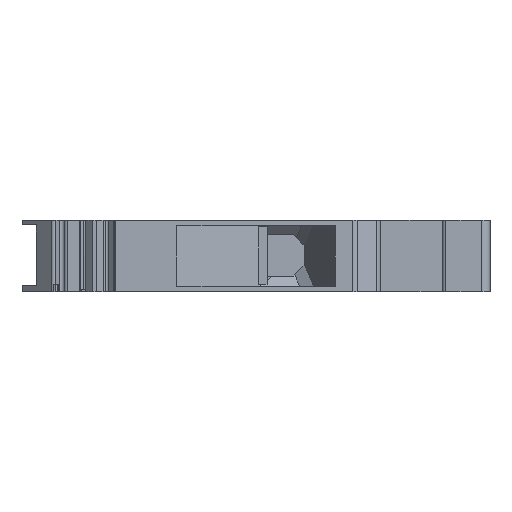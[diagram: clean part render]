
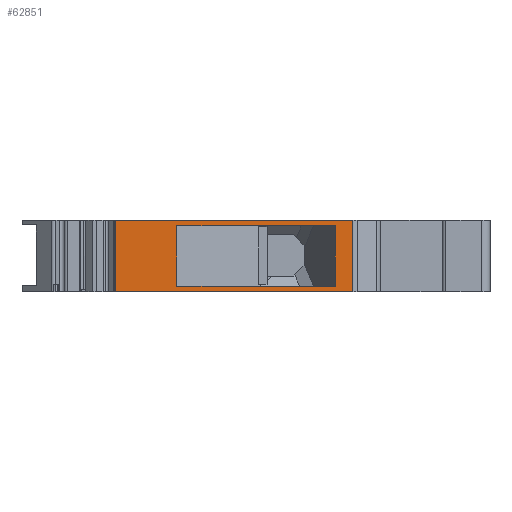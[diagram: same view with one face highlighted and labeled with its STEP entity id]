
A CAD part, left-side view. The second image highlights one B-rep face of the part: STEP entity #62851.
In plain terms, the highlighted planar face has unit normal (-1, 0, 0).
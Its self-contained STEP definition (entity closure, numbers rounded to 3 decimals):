
#62851 = ADVANCED_FACE('',(#62852,#62923),#62866,.F.);
#62852 = FACE_BOUND('',#62853,.F.);
#62853 = EDGE_LOOP('',(#62854,#62877,#62893,#62909));
#62854 = ORIENTED_EDGE('',*,*,#62855,.F.);
#62855 = EDGE_CURVE('',#62856,#62858,#62860,.T.);
#62856 = VERTEX_POINT('',#62857);
#62857 = CARTESIAN_POINT('',(-48.15,9.257,
    70.));
#62858 = VERTEX_POINT('',#62859);
#62859 = CARTESIAN_POINT('',(-48.15,9.257,78.15));
#62860 = SURFACE_CURVE('',#62861,(#62865),.PCURVE_S1.);
#62861 = LINE('',#62862,#62863);
#62862 = CARTESIAN_POINT('',(-48.15,9.257,
    70.));
#62863 = VECTOR('',#62864,1.);
#62864 = DIRECTION('',(0.,0.,1.));
#62865 = PCURVE('',#62866,#62871);
#62866 = PLANE('',#62867);
#62867 = AXIS2_PLACEMENT_3D('',#62868,#62869,#62870);
#62868 = CARTESIAN_POINT('',(-48.15,29.348,
    70.5));
#62869 = DIRECTION('',(1.,0.,0.));
#62870 = DIRECTION('',(0.,-1.,0.));
#62871 = DEFINITIONAL_REPRESENTATION('',(#62872),#62876);
#62872 = LINE('',#62873,#62874);
#62873 = CARTESIAN_POINT('',(20.092,0.5));
#62874 = VECTOR('',#62875,1.);
#62875 = DIRECTION('',(0.,-1.));
#62876 = ( GEOMETRIC_REPRESENTATION_CONTEXT(2) 
PARAMETRIC_REPRESENTATION_CONTEXT() REPRESENTATION_CONTEXT('2D SPACE',''
  ) );
#62877 = ORIENTED_EDGE('',*,*,#62878,.F.);
#62878 = EDGE_CURVE('',#62879,#62856,#62881,.T.);
#62879 = VERTEX_POINT('',#62880);
#62880 = CARTESIAN_POINT('',(-48.15,36.19,
    70.));
#62881 = SURFACE_CURVE('',#62882,(#62886),.PCURVE_S1.);
#62882 = LINE('',#62883,#62884);
#62883 = CARTESIAN_POINT('',(-48.15,36.19,
    70.));
#62884 = VECTOR('',#62885,1.);
#62885 = DIRECTION('',(0.,-1.,0.));
#62886 = PCURVE('',#62866,#62887);
#62887 = DEFINITIONAL_REPRESENTATION('',(#62888),#62892);
#62888 = LINE('',#62889,#62890);
#62889 = CARTESIAN_POINT('',(-6.841,0.5));
#62890 = VECTOR('',#62891,1.);
#62891 = DIRECTION('',(1.,0.));
#62892 = ( GEOMETRIC_REPRESENTATION_CONTEXT(2) 
PARAMETRIC_REPRESENTATION_CONTEXT() REPRESENTATION_CONTEXT('2D SPACE',''
  ) );
#62893 = ORIENTED_EDGE('',*,*,#62894,.F.);
#62894 = EDGE_CURVE('',#62895,#62879,#62897,.T.);
#62895 = VERTEX_POINT('',#62896);
#62896 = CARTESIAN_POINT('',(-48.15,36.19,78.15));
#62897 = SURFACE_CURVE('',#62898,(#62902),.PCURVE_S1.);
#62898 = LINE('',#62899,#62900);
#62899 = CARTESIAN_POINT('',(-48.15,36.19,78.15));
#62900 = VECTOR('',#62901,1.);
#62901 = DIRECTION('',(0.,0.,-1.));
#62902 = PCURVE('',#62866,#62903);
#62903 = DEFINITIONAL_REPRESENTATION('',(#62904),#62908);
#62904 = LINE('',#62905,#62906);
#62905 = CARTESIAN_POINT('',(-6.841,-7.65));
#62906 = VECTOR('',#62907,1.);
#62907 = DIRECTION('',(0.,1.));
#62908 = ( GEOMETRIC_REPRESENTATION_CONTEXT(2) 
PARAMETRIC_REPRESENTATION_CONTEXT() REPRESENTATION_CONTEXT('2D SPACE',''
  ) );
#62909 = ORIENTED_EDGE('',*,*,#62910,.F.);
#62910 = EDGE_CURVE('',#62858,#62895,#62911,.T.);
#62911 = SURFACE_CURVE('',#62912,(#62916),.PCURVE_S1.);
#62912 = LINE('',#62913,#62914);
#62913 = CARTESIAN_POINT('',(-48.15,9.257,78.15));
#62914 = VECTOR('',#62915,1.);
#62915 = DIRECTION('',(0.,1.,0.));
#62916 = PCURVE('',#62866,#62917);
#62917 = DEFINITIONAL_REPRESENTATION('',(#62918),#62922);
#62918 = LINE('',#62919,#62920);
#62919 = CARTESIAN_POINT('',(20.092,-7.65));
#62920 = VECTOR('',#62921,1.);
#62921 = DIRECTION('',(-1.,0.));
#62922 = ( GEOMETRIC_REPRESENTATION_CONTEXT(2) 
PARAMETRIC_REPRESENTATION_CONTEXT() REPRESENTATION_CONTEXT('2D SPACE',''
  ) );
#62923 = FACE_BOUND('',#62924,.F.);
#62924 = EDGE_LOOP('',(#62925,#62943,#62959,#62975));
#62925 = ORIENTED_EDGE('',*,*,#62926,.T.);
#62926 = EDGE_CURVE('',#62927,#62929,#62931,.T.);
#62927 = VERTEX_POINT('',#62928);
#62928 = CARTESIAN_POINT('',(-48.15,11.232,
    77.5));
#62929 = VERTEX_POINT('',#62930);
#62930 = CARTESIAN_POINT('',(-48.15,29.224,
    77.5));
#62931 = SURFACE_CURVE('',#62932,(#62936),.PCURVE_S1.);
#62932 = LINE('',#62933,#62934);
#62933 = CARTESIAN_POINT('',(-48.15,11.232,
    77.5));
#62934 = VECTOR('',#62935,1.);
#62935 = DIRECTION('',(0.,1.,0.));
#62936 = PCURVE('',#62866,#62937);
#62937 = DEFINITIONAL_REPRESENTATION('',(#62938),#62942);
#62938 = LINE('',#62939,#62940);
#62939 = CARTESIAN_POINT('',(18.116,-7.));
#62940 = VECTOR('',#62941,1.);
#62941 = DIRECTION('',(-1.,0.));
#62942 = ( GEOMETRIC_REPRESENTATION_CONTEXT(2) 
PARAMETRIC_REPRESENTATION_CONTEXT() REPRESENTATION_CONTEXT('2D SPACE',''
  ) );
#62943 = ORIENTED_EDGE('',*,*,#62944,.F.);
#62944 = EDGE_CURVE('',#62945,#62929,#62947,.T.);
#62945 = VERTEX_POINT('',#62946);
#62946 = CARTESIAN_POINT('',(-48.15,29.224,
    70.65));
#62947 = SURFACE_CURVE('',#62948,(#62952),.PCURVE_S1.);
#62948 = LINE('',#62949,#62950);
#62949 = CARTESIAN_POINT('',(-48.15,29.224,
    70.65));
#62950 = VECTOR('',#62951,1.);
#62951 = DIRECTION('',(0.,0.,1.));
#62952 = PCURVE('',#62866,#62953);
#62953 = DEFINITIONAL_REPRESENTATION('',(#62954),#62958);
#62954 = LINE('',#62955,#62956);
#62955 = CARTESIAN_POINT('',(0.125,-0.15));
#62956 = VECTOR('',#62957,1.);
#62957 = DIRECTION('',(0.,-1.));
#62958 = ( GEOMETRIC_REPRESENTATION_CONTEXT(2) 
PARAMETRIC_REPRESENTATION_CONTEXT() REPRESENTATION_CONTEXT('2D SPACE',''
  ) );
#62959 = ORIENTED_EDGE('',*,*,#62960,.F.);
#62960 = EDGE_CURVE('',#62961,#62945,#62963,.T.);
#62961 = VERTEX_POINT('',#62962);
#62962 = CARTESIAN_POINT('',(-48.15,11.232,
    70.65));
#62963 = SURFACE_CURVE('',#62964,(#62968),.PCURVE_S1.);
#62964 = LINE('',#62965,#62966);
#62965 = CARTESIAN_POINT('',(-48.15,11.232,
    70.65));
#62966 = VECTOR('',#62967,1.);
#62967 = DIRECTION('',(0.,1.,0.));
#62968 = PCURVE('',#62866,#62969);
#62969 = DEFINITIONAL_REPRESENTATION('',(#62970),#62974);
#62970 = LINE('',#62971,#62972);
#62971 = CARTESIAN_POINT('',(18.116,-0.15));
#62972 = VECTOR('',#62973,1.);
#62973 = DIRECTION('',(-1.,0.));
#62974 = ( GEOMETRIC_REPRESENTATION_CONTEXT(2) 
PARAMETRIC_REPRESENTATION_CONTEXT() REPRESENTATION_CONTEXT('2D SPACE',''
  ) );
#62975 = ORIENTED_EDGE('',*,*,#62976,.T.);
#62976 = EDGE_CURVE('',#62961,#62927,#62977,.T.);
#62977 = SURFACE_CURVE('',#62978,(#62982),.PCURVE_S1.);
#62978 = LINE('',#62979,#62980);
#62979 = CARTESIAN_POINT('',(-48.15,11.232,
    70.65));
#62980 = VECTOR('',#62981,1.);
#62981 = DIRECTION('',(0.,0.,1.));
#62982 = PCURVE('',#62866,#62983);
#62983 = DEFINITIONAL_REPRESENTATION('',(#62984),#62988);
#62984 = LINE('',#62985,#62986);
#62985 = CARTESIAN_POINT('',(18.116,-0.15));
#62986 = VECTOR('',#62987,1.);
#62987 = DIRECTION('',(0.,-1.));
#62988 = ( GEOMETRIC_REPRESENTATION_CONTEXT(2) 
PARAMETRIC_REPRESENTATION_CONTEXT() REPRESENTATION_CONTEXT('2D SPACE',''
  ) );
